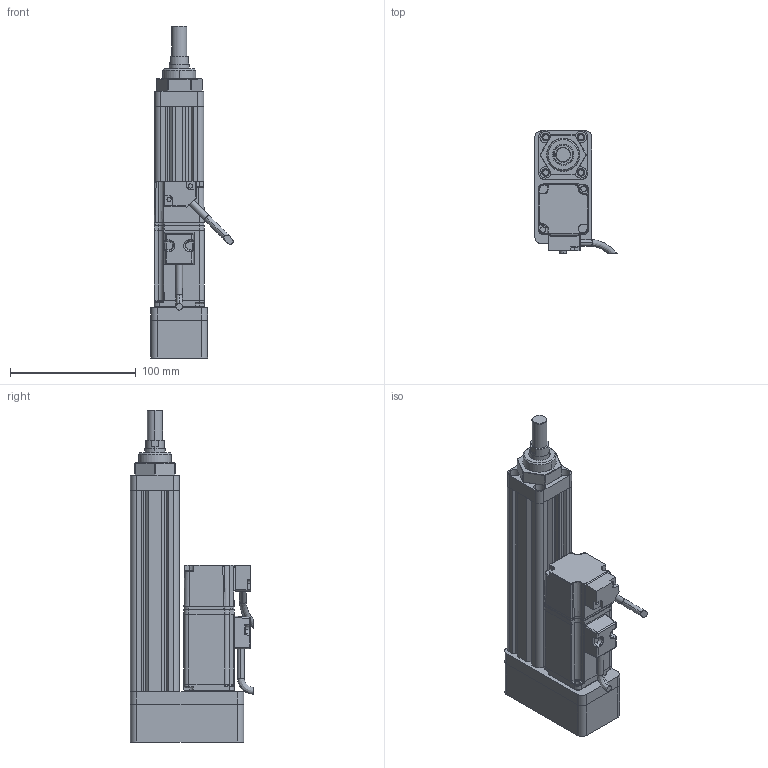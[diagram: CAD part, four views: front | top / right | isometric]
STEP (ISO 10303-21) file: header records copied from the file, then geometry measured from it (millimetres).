
FILE_DESCRIPTION (( 'STEP AP214' ), '1' );
FILE_NAME ('039-S100-D02-B-M4-C1-2.STEP', '2021-02-25T08:53:48', ( '' ), ( '' ), 'SwSTEP 2.0', 'SolidWorks 2018', '' );
FILE_SCHEMA (( 'AUTOMOTIVE_DESIGN' ));
Length unit declared in the file: millimetre
Products named in the file (8): CMC039-GT; 039-S100-D02-B-M4-C1-2; CMC039-HXT; CMC039-DT; CMC039-M261; CMC039-FL; ECMA-CX0401ES-40框號系列機種-100W低慣量系列; CMC039-LJB
Assembly tree (7 placements, depth 2):
  039-S100-D02-B-M4-C1-2
    CMC039-GT
    CMC039-LJB
    CMC039-FL
    CMC039-DT
    ECMA-CX0401ES-40框號系列機種-100W低慣量系列
    CMC039-M261
    CMC039-HXT
Bounding box: 65.34 x 97.89 x 264 mm (x, y, z)
Volume: 427872.6 mm3; surface area: 128789.8 mm2
Topology: 7 solids, 15 shells, 700 faces, 1816 edges, 1128 vertices
Faces by surface type: cylinder 287, plane 270, bspline 84, cone 59
Entity records: 27587 total; most frequent: CARTESIAN_POINT 11136, ORIENTED_EDGE 3566, DIRECTION 2952, EDGE_CURVE 1783, VERTEX_POINT 1128, AXIS2_PLACEMENT_3D 1031, LINE 890, VECTOR 890
